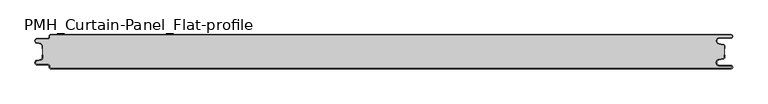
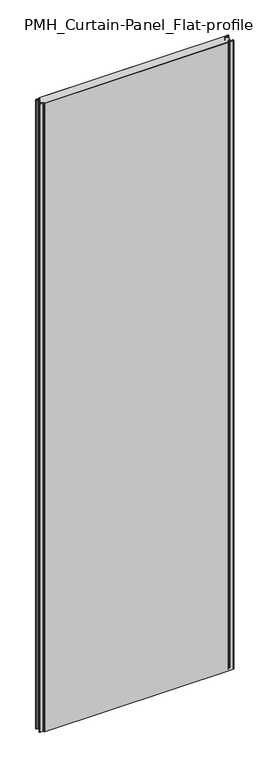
"""IFC4 building model written with IfcOpenShell, lengths in millimetres: plate geometry, PMH_Curtain-Panel_Flat-profile : ACH_PMH_Acoustic-Sectioning-Panel_50M."""

import ifcopenshell
import ifcopenshell.guid

model = None  # the IFC model being written
_history = None  # IfcOwnerHistory: only IFC2X3 demands one
_inside = {}  # id of a spatial element -> (the spatial element, [elements in it])
_under = {}  # id of a project, library or spatial element -> (it, [spatial elements below it])
_declared = {}  # id of a project -> (the project, [libraries it declares])
_typed = {}  # id of a type object -> (the type object, [elements of that type])
_made_of = {}  # id of a material, layer set ... -> (it, [elements and type objects made of it])


def new_model(schema):
    """Start an empty IFC model of exactly this schema.

    Asked for "IFC4X3", IfcOpenShell would pick the latest addendum, in which some entities
    have other attributes; the version numbers below select the first issue.
    IFC2X3 requires an IfcOwnerHistory on every rooted entity: one is made here for all.
    """
    global model, _history
    if schema == "IFC4X3":
        model = ifcopenshell.file(schema_version=(4, 3, 0, 0))
    else:
        model = ifcopenshell.file(schema=schema)
    _inside.clear()
    _under.clear()
    _declared.clear()
    _typed.clear()
    _made_of.clear()
    _history = None
    if model.schema == "IFC2X3":
        org = make("IfcOrganization", Name="unknown")
        user = make(
            "IfcPersonAndOrganization",
            ThePerson=make("IfcPerson", FamilyName="unknown"),
            TheOrganization=org,
        )
        app = make(
            "IfcApplication",
            ApplicationDeveloper=org,
            Version="unknown",
            ApplicationFullName="unknown",
            ApplicationIdentifier="unknown",
        )
        _history = make(
            "IfcOwnerHistory",
            OwningUser=user,
            OwningApplication=app,
            ChangeAction="ADDED",
            CreationDate=0,
        )
    return model


def make(cls, **values):
    """One entity of the class cls with the attributes given. An attribute that is None is left unset."""
    return model.create_entity(
        cls, **{name: value for name, value in values.items() if value is not None}
    )


def rooted(cls, **values):
    """An entity with a GlobalId (a new one), such as an element, a storey or a relation."""
    return make(cls, GlobalId=ifcopenshell.guid.new(), OwnerHistory=_history, **values)


def si_unit(unit_type, name, prefix=None):
    """IfcSIUnit, for example si_unit("LENGTHUNIT", "METRE", prefix="MILLI")."""
    return make("IfcSIUnit", UnitType=unit_type, Prefix=prefix, Name=name)


def assignment(units):
    """IfcUnitAssignment: the units of a project."""
    return None if units is None else make("IfcUnitAssignment", Units=units)


def point(xyz):
    """IfcCartesianPoint."""
    return None if xyz is None else make("IfcCartesianPoint", Coordinates=xyz)


def direction(xyz):
    """IfcDirection."""
    return None if xyz is None else make("IfcDirection", DirectionRatios=xyz)


def frame(location, z_axis=None, x_axis=None):
    """IfcAxis2Placement3D, a coordinate frame: its origin and axes. An axis left out is left unset."""
    return make(
        "IfcAxis2Placement3D",
        Location=point(location),
        Axis=direction(z_axis),
        RefDirection=direction(x_axis),
    )


def frame_2d(location, x_axis=None):
    """IfcAxis2Placement2D, a coordinate frame in the plane: its origin and x axis."""
    return make(
        "IfcAxis2Placement2D", Location=point(location), RefDirection=direction(x_axis)
    )


def origin():
    """The frame at (0, 0, 0) with its axes left unset."""
    return frame((0.0, 0.0, 0.0))


def origin_with_axes():
    """The frame at (0, 0, 0) with the z axis (0, 0, 1) and the x axis (1, 0, 0) written out."""
    return frame((0.0, 0.0, 0.0), z_axis=(0.0, 0.0, 1.0), x_axis=(1.0, 0.0, 0.0))


def place(relative_to, where):
    """IfcLocalPlacement: puts the frame where relative to a parent placement (None: the world)."""
    return make(
        "IfcLocalPlacement", PlacementRelTo=relative_to, RelativePlacement=where
    )


def context(
    kind, dimensions, precision=None, world=None, true_north=None, identifier=None
):
    """IfcGeometricRepresentationContext, for example the 3D "Model" context."""
    return make(
        "IfcGeometricRepresentationContext",
        ContextIdentifier=identifier,
        ContextType=kind,
        CoordinateSpaceDimension=dimensions,
        Precision=precision,
        WorldCoordinateSystem=world,
        TrueNorth=true_north,
    )


def project(units=None, contexts=None):
    """IfcProject with its units and contexts."""
    return rooted(
        "IfcProject",
        Name="project",
        RepresentationContexts=contexts,
        UnitsInContext=assignment(units),
    )


def spatial(cls, under=None, at=None, **own):
    """A site, building, storey or space (cls), placed at a placement, below another one or the project."""
    s = rooted(cls, ObjectPlacement=at, **own)
    if under is not None:
        _under.setdefault(under.id(), (under, []))[1].append(s)
    return s


def polyline(points):
    """IfcPolyline through the points."""
    return make("IfcPolyline", Points=[point(p) for p in points])


def circle_curve(where, radius):
    """IfcCircle in the frame where."""
    return make("IfcCircle", Position=where, Radius=radius)


def trimmed(basis, trim1, trim2, sense, master):
    """IfcTrimmedCurve: the piece of a basis curve between two trims."""
    return make(
        "IfcTrimmedCurve",
        BasisCurve=basis,
        Trim1=trim1,
        Trim2=trim2,
        SenseAgreement=sense,
        MasterRepresentation=master,
    )


def segment(curve, same_sense, transition):
    """IfcCompositeCurveSegment."""
    return make(
        "IfcCompositeCurveSegment",
        Transition=transition,
        SameSense=same_sense,
        ParentCurve=curve,
    )


def composite_curve(segments, self_intersect=None):
    """IfcCompositeCurve: segments joined end to end."""
    return make("IfcCompositeCurve", Segments=segments, SelfIntersect=self_intersect)


def outline(outer, holes=None, kind="AREA"):
    """IfcArbitraryClosedProfileDef: a profile drawn as a closed curve; with holes, ...WithVoids."""
    if holes is None:
        return make("IfcArbitraryClosedProfileDef", ProfileType=kind, OuterCurve=outer)
    return make(
        "IfcArbitraryProfileDefWithVoids",
        ProfileType=kind,
        OuterCurve=outer,
        InnerCurves=holes,
    )


def extrude(swept, where, along, depth):
    """IfcExtrudedAreaSolid: the profile swept, set in the frame where, extruded along a direction by depth."""
    return make(
        "IfcExtrudedAreaSolid",
        SweptArea=swept,
        Position=where,
        ExtrudedDirection=direction(along),
        Depth=depth,
    )


def shape(context_of_items, identifier, shape_type, items):
    """IfcShapeRepresentation: the items that make up one representation, for example the "Body"."""
    return make(
        "IfcShapeRepresentation",
        ContextOfItems=context_of_items,
        RepresentationIdentifier=identifier,
        RepresentationType=shape_type,
        Items=items,
    )


def source(mapping_origin, context_of_items, identifier, shape_type, items):
    """IfcRepresentationMap: a shape defined once, which mapped items show again and again."""
    return make(
        "IfcRepresentationMap",
        MappingOrigin=mapping_origin,
        MappedRepresentation=shape(context_of_items, identifier, shape_type, items),
    )


def transform(
    local_origin,
    x_axis=None,
    y_axis=None,
    z_axis=None,
    scale=None,
    scale2=None,
    scale3=None,
    uniform=True,
):
    """IfcCartesianTransformationOperator3D, or its non-uniform kind. x_axis, y_axis, z_axis: its Axis1, 2, 3."""
    if uniform:
        return make(
            "IfcCartesianTransformationOperator3D",
            Axis1=direction(x_axis),
            Axis2=direction(y_axis),
            LocalOrigin=point(local_origin),
            Scale=scale,
            Axis3=direction(z_axis),
        )
    return make(
        "IfcCartesianTransformationOperator3DnonUniform",
        Axis1=direction(x_axis),
        Axis2=direction(y_axis),
        LocalOrigin=point(local_origin),
        Scale=scale,
        Axis3=direction(z_axis),
        Scale2=scale2,
        Scale3=scale3,
    )


def mapped(mapping_source, mapping_target):
    """IfcMappedItem: shows the shape of a source again, moved by a transform."""
    return make(
        "IfcMappedItem", MappingSource=mapping_source, MappingTarget=mapping_target
    )


def made_of(thing, what):
    """Note that an element or type object is made of a material, layer set ...; save() writes the relation."""
    if what is not None:
        _made_of.setdefault(what.id(), (what, []))[1].append(thing)
    return thing


def element(
    cls,
    number,
    at=None,
    inside=None,
    cuts=None,
    type_object=None,
    material=None,
    context=None,
    identifier="Body",
    shape_type=None,
    held_by="IfcProductDefinitionShape",
    body=None,
    shapes=None,
    **own,
):
    """One element of the class cls, such as IfcWall. Its Tag is "e" and its number.

    at: its placement. inside: the storey or other place that contains it. cuts: it is an
    opening in that element (IfcRelVoidsElement). A single representation is given by context,
    identifier, shape_type and body (its items); several are given by shapes. held_by: the class
    of the entity that holds the representations. save() writes the other relations.
    """
    e = rooted(cls, Tag="e%d" % number, ObjectPlacement=at, **own)
    if body is not None:
        shapes = [shape(context, identifier, shape_type, body)]
    if shapes is not None:
        e.Representation = make(held_by, Representations=shapes)
    if inside is not None:
        _inside.setdefault(inside.id(), (inside, []))[1].append(e)
    if cuts is not None:
        rooted(
            "IfcRelVoidsElement", RelatingBuildingElement=cuts, RelatedOpeningElement=e
        )
    if type_object is not None:
        _typed.setdefault(type_object.id(), (type_object, []))[1].append(e)
    return made_of(e, material)


def aggregate(whole, parts):
    """IfcRelAggregates: a whole, such as a stair, and the parts it consists of."""
    return rooted("IfcRelAggregates", RelatingObject=whole, RelatedObjects=parts)


def save(model, path):
    """Write the relations noted so far, then the file.

    IfcRelAggregates (storeys below a building ...), IfcRelContainedInSpatialStructure (elements
    in a storey), IfcRelDefinesByType, IfcRelAssociatesMaterial and IfcRelDeclares: one each for
    every whole, place, type object, material and project.
    """
    for whole, parts in _under.values():
        aggregate(whole, parts)
    for where, things in _inside.values():
        rooted(
            "IfcRelContainedInSpatialStructure",
            RelatedElements=things,
            RelatingStructure=where,
        )
    for kind, things in _typed.values():
        rooted("IfcRelDefinesByType", RelatedObjects=things, RelatingType=kind)
    for what, things in _made_of.values():
        rooted("IfcRelAssociatesMaterial", RelatedObjects=things, RelatingMaterial=what)
    for by, libraries in _declared.values():
        rooted("IfcRelDeclares", RelatingContext=by, RelatedDefinitions=libraries)
    model.write(path)


def plane_surface(at):
    """IfcPlane: the flat surface through the origin of the frame at, square to its z axis."""
    return make("IfcPlane", Position=at)


def cylinder_surface(at, radius):
    """IfcCylindricalSurface: all points at the distance radius from the z axis of the frame at."""
    return make("IfcCylindricalSurface", Position=at, Radius=radius)


def revolved_surface(curve, axis_point, axis_direction):
    """IfcSurfaceOfRevolution: the curve turned about the line through axis_point along axis_direction."""
    return make(
        "IfcSurfaceOfRevolution",
        SweptCurve=make("IfcArbitraryOpenProfileDef", ProfileType="CURVE", Curve=curve),
        AxisPosition=make("IfcAxis1Placement", Location=point(axis_point), Axis=direction(axis_direction)),
    )


def advanced_brep(points, edges, surfaces, faces):
    """IfcAdvancedBrep: a solid bounded by faces that lie on surfaces and meet in shared edges.

    An edge is (start, end): straight between two places in points (the first is 0);
    or (start, end, curve); or (start, end, curve, False) where it runs against its curve.
    A face is (place in surfaces, loops), or (place, loops, False) where it looks against
    its surface's normal. A loop lists edges by number (the first is 1), with a minus sign
    where the edge is run from its end to its start. The first loop is the outer one.
    """
    corners = [point(p) for p in points]
    vertices = [make("IfcVertexPoint", VertexGeometry=c) for c in corners]
    made = []
    for start, end, *more in edges:
        made.append(
            make(
                "IfcEdgeCurve",
                EdgeStart=vertices[start],
                EdgeEnd=vertices[end],
                EdgeGeometry=more[0] if more else make("IfcPolyline", Points=[corners[start], corners[end]]),
                SameSense=more[1] if len(more) > 1 else True,
            )
        )
    hull = []
    for where, loops, *sense in faces:
        bounds = []
        for j, loop in enumerate(loops):
            ring = [make("IfcOrientedEdge", EdgeElement=made[abs(k) - 1], Orientation=k > 0) for k in loop]
            bounds.append(
                make(
                    "IfcFaceOuterBound" if j == 0 else "IfcFaceBound",
                    Bound=make("IfcEdgeLoop", EdgeList=ring),
                    Orientation=True,
                )
            )
        hull.append(make("IfcAdvancedFace", Bounds=bounds, FaceSurface=surfaces[where], SameSense=sense[0] if sense else True))
    return make("IfcAdvancedBrep", Outer=make("IfcClosedShell", CfsFaces=hull))


def pmh_curtain_panel_flat_profile_2aa518ef(model_context):
    return source(origin(), model_context, "Body", "SolidModel", [
        advanced_brep(
        [(508.1, 0.0, 3500.0), (510.6, 2.5000002, 3500.0), (508.1, 5.0, 3500.0), (491.1, 5.0, 3500.0), (490.405407, 12.939231, 3500.0), (496.8514855, 14.0758491, 3500.0), (499.0, 16.6363492, 3500.0), (499.0, 20.0, 3500.0), (498.2, 20.0, 3500.0), (498.2, 16.6363492, 3500.0), (496.7125669, 14.8636953, 3500.0), (490.2664884, 13.7270771, 3500.0), (491.1, 4.2, 3500.0), (508.1, 4.2, 3500.0), (508.1, 0.8, 3500.0), (-487.4, 0.8, 3500.0), (-488.6, 2.0, 3500.0), (-488.6, 3.4, 3500.0), (-491.4, 6.2, 3500.0), (-506.9, 6.2, 3500.0), (-507.529863, 11.7282362, 3500.0), (-501.370137, 13.150321, 3500.0), (-499.2, 15.878557, 3500.0), (-499.2, 20.0, 3500.0), (-500.0, 20.0, 3500.0), (-500.0, 15.878557, 3500.0), (-501.5500978, 13.9298169, 3500.0), (-507.7098239, 12.507732, 3500.0), (-506.9, 5.4, 3500.0), (-491.4, 5.4, 3500.0), (-489.4, 3.4, 3500.0), (-489.4, 2.0, 3500.0), (-487.4, 0.0, 3500.0), (-487.4, 0.0, 0.0), (-489.4, 2.0, 0.0), (-489.4, 3.4, 0.0), (-491.4, 5.4, 0.0), (-506.9, 5.4, 0.0), (-507.7098239, 12.5077322, 0.0), (-501.5500979, 13.929817, 0.0), (-500.0, 15.878557, 0.0), (-500.0, 20.0, 0.0), (-499.2, 20.0, 0.0), (-499.2, 15.878557, 0.0), (-501.370137, 13.1503208, 0.0), (-507.529863, 11.728236, 0.0), (-506.9, 6.2, 0.0), (-491.4, 6.2, 0.0), (-488.6, 3.4, 0.0), (-488.6, 2.0, 0.0), (-487.4, 0.8, 0.0), (508.1, 0.8, 0.0), (508.1, 4.2, 0.0), (491.1, 4.2, 0.0), (490.2664884, 13.7270771, 0.0), (496.7125669, 14.8636953, 0.0), (498.2, 16.6363492, 0.0), (498.2, 20.0, 0.0), (499.0, 20.0, 0.0), (499.0, 16.6363492, 0.0), (496.8514855, 14.0758491, 0.0), (490.405407, 12.939231, 0.0), (491.1, 5.0, 0.0), (508.1, 5.0, 0.0), (510.6, 2.4999998, 0.0), (508.1, 0.0, 0.0)],
        [
            (0, 1, circle_curve(frame((508.1, 2.5, 3500.0), z_axis=(0.0, 0.0, 1.0), x_axis=(1.0, 0.0, 0.0)), 2.5)),
            (1, 2, circle_curve(frame((508.1, 2.5, 3500.0), z_axis=(0.0, 0.0, 1.0), x_axis=(1.0, 0.0, 0.0)), 2.5)),
            (2, 3),
            (3, 4, circle_curve(frame((491.1, 9.0, 3500.0), z_axis=(0.0, 0.0, -1.0), x_axis=(1.0, 0.0, 0.0)), 4.0)),
            (4, 5),
            (5, 6, circle_curve(frame((496.4, 16.6363492, 3500.0), z_axis=(0.0, 0.0, 1.0), x_axis=(1.0, 0.0, 0.0)), 2.6)),
            (6, 7),
            (7, 8),
            (8, 9),
            (9, 10, circle_curve(frame((496.4, 16.6363492, 3500.0), z_axis=(0.0, 0.0, -1.0), x_axis=(1.0, 0.0, 0.0)), 1.8)),
            (10, 11),
            (11, 12, circle_curve(frame((491.1, 9.0, 3500.0), z_axis=(0.0, 0.0, 1.0), x_axis=(1.0, 0.0, 0.0)), 4.8)),
            (12, 13),
            (13, 14, circle_curve(frame((508.1, 2.5, 3500.0), z_axis=(0.0, 0.0, -1.0), x_axis=(1.0, 0.0, 0.0)), 1.7)),
            (14, 15),
            (15, 16, circle_curve(frame((-487.4, 2.0, 3500.0), z_axis=(0.0, 0.0, -1.0), x_axis=(1.0, 0.0, 0.0)), 1.2)),
            (16, 17),
            (17, 18, circle_curve(frame((-491.4, 3.4, 3500.0), z_axis=(0.0, 0.0, 1.0), x_axis=(1.0, 0.0, 0.0)), 2.8)),
            (18, 19),
            (19, 20, circle_curve(frame((-506.9, 9.0, 3500.0), z_axis=(0.0, 0.0, -1.0), x_axis=(1.0, 0.0, 0.0)), 2.8)),
            (20, 21),
            (21, 22, circle_curve(frame((-502.0, 15.878557, 3500.0), z_axis=(0.0, 0.0, 1.0), x_axis=(1.0, 0.0, 0.0)), 2.8)),
            (22, 23),
            (23, 24),
            (24, 25),
            (25, 26, circle_curve(frame((-502.0, 15.878557, 3500.0), z_axis=(0.0, 0.0, -1.0), x_axis=(1.0, 0.0, 0.0)), 2.0)),
            (26, 27),
            (27, 28, circle_curve(frame((-506.9, 9.0, 3500.0), z_axis=(0.0, 0.0, 1.0), x_axis=(1.0, 0.0, 0.0)), 3.6)),
            (28, 29),
            (29, 30, circle_curve(frame((-491.4, 3.4, 3500.0), z_axis=(0.0, 0.0, -1.0), x_axis=(1.0, 0.0, 0.0)), 2.0)),
            (30, 31),
            (31, 32, circle_curve(frame((-487.4, 2.0, 3500.0), z_axis=(0.0, 0.0, 1.0), x_axis=(1.0, 0.0, 0.0)), 2.0)),
            (32, 0),
            (33, 34, circle_curve(frame((-487.4, 2.0, 0.0), z_axis=(0.0, 0.0, -1.0), x_axis=(1.0, 0.0, 0.0)), 2.0)),
            (34, 35),
            (35, 36, circle_curve(frame((-491.4, 3.4, 0.0), z_axis=(0.0, 0.0, 1.0), x_axis=(1.0, 0.0, 0.0)), 2.0)),
            (36, 37),
            (37, 38, circle_curve(frame((-506.9, 9.0, 0.0), z_axis=(0.0, 0.0, -1.0), x_axis=(1.0, 0.0, 0.0)), 3.6)),
            (38, 39),
            (39, 40, circle_curve(frame((-502.0, 15.878557, 0.0), z_axis=(0.0, 0.0, 1.0), x_axis=(1.0, 0.0, 0.0)), 2.0)),
            (40, 41),
            (41, 42),
            (42, 43),
            (43, 44, circle_curve(frame((-502.0, 15.878557, 0.0), z_axis=(0.0, 0.0, -1.0), x_axis=(1.0, 0.0, 0.0)), 2.8)),
            (44, 45),
            (45, 46, circle_curve(frame((-506.9, 9.0, 0.0), z_axis=(0.0, 0.0, 1.0), x_axis=(1.0, 0.0, 0.0)), 2.8)),
            (46, 47),
            (47, 48, circle_curve(frame((-491.4, 3.4, 0.0), z_axis=(0.0, 0.0, -1.0), x_axis=(1.0, 0.0, 0.0)), 2.8)),
            (48, 49),
            (49, 50, circle_curve(frame((-487.4, 2.0, 0.0), z_axis=(0.0, 0.0, 1.0), x_axis=(1.0, 0.0, 0.0)), 1.2)),
            (50, 51),
            (51, 52, circle_curve(frame((508.1, 2.5, 0.0), z_axis=(0.0, 0.0, 1.0), x_axis=(1.0, 0.0, 0.0)), 1.7)),
            (52, 53),
            (53, 54, circle_curve(frame((491.1, 9.0, 0.0), z_axis=(0.0, 0.0, -1.0), x_axis=(1.0, 0.0, 0.0)), 4.8)),
            (54, 55),
            (55, 56, circle_curve(frame((496.4, 16.6363492, 0.0), z_axis=(0.0, 0.0, 1.0), x_axis=(1.0, 0.0, 0.0)), 1.8)),
            (56, 57),
            (57, 58),
            (58, 59),
            (59, 60, circle_curve(frame((496.4, 16.6363492, 0.0), z_axis=(0.0, 0.0, -1.0), x_axis=(1.0, 0.0, 0.0)), 2.6)),
            (60, 61),
            (61, 62, circle_curve(frame((491.1, 9.0, 0.0), z_axis=(0.0, 0.0, 1.0), x_axis=(1.0, 0.0, 0.0)), 4.0)),
            (62, 63),
            (63, 64, circle_curve(frame((508.1, 2.5, 0.0), z_axis=(0.0, 0.0, -1.0), x_axis=(1.0, 0.0, 0.0)), 2.5)),
            (64, 65, circle_curve(frame((508.1, 2.5, 0.0), z_axis=(0.0, 0.0, -1.0), x_axis=(1.0, 0.0, 0.0)), 2.5)),
            (65, 33),
            (31, 34),
            (33, 32),
            (30, 35),
            (29, 36),
            (28, 37),
            (27, 38),
            (26, 39),
            (25, 40),
            (24, 41),
            (23, 42),
            (22, 43),
            (21, 44),
            (20, 45),
            (19, 46),
            (18, 47),
            (17, 48),
            (16, 49),
            (15, 50),
            (14, 51),
            (13, 52),
            (12, 53),
            (11, 54),
            (10, 55),
            (9, 56),
            (8, 57),
            (7, 58),
            (6, 59),
            (5, 60),
            (4, 61),
            (3, 62),
            (2, 63),
            (0, 65),
        ],
        [
            plane_surface(frame((-500.0, 0.0, 3500.0), z_axis=(0.0, 0.0, 1.0), x_axis=(0.0, -1.0, 0.0))),
            plane_surface(frame((-500.0, 0.0, 0.0), z_axis=(0.0, 0.0, -1.0), x_axis=(0.0, -1.0, 0.0))),
            cylinder_surface(frame((-487.4, 2.0, 3500.0), z_axis=(0.0, 0.0, 1.0), x_axis=(1.0, 0.0, 0.0)), 2.0),
            plane_surface(frame((-489.4, 2.0, 3500.0), z_axis=(-1.0, 0.0, 0.0), x_axis=(0.0, 0.0, -1.0))),
            revolved_surface(polyline([(-489.4, 3.4, 0.0), (-489.4, 3.4, 3500.0)]), (-491.4, 3.4, 3500.0), (0.0, 0.0, -1.0)),
            plane_surface(frame((-491.4, 5.4, 3500.0), z_axis=(0.0, -1.0, 0.0), x_axis=(0.0, 0.0, -1.0))),
            cylinder_surface(frame((-506.9, 9.0, 3500.0), z_axis=(0.0, 0.0, 1.0), x_axis=(1.0, 0.0, 0.0)), 3.6),
            plane_surface(frame((-507.7098239, 12.507732, 3500.0), z_axis=(-0.2249510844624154, 0.9743700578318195, 0.0), x_axis=(0.0, 0.0, -1.0))),
            revolved_surface(polyline([(-500.0, 15.878557, 0.0), (-500.0, 15.878557, 3500.0)]), (-502.0, 15.878557, 3500.0), (0.0, 0.0, -1.0)),
            plane_surface(frame((-500.0, 15.878557, 3500.0), z_axis=(-1.0, 0.0, 0.0), x_axis=(0.0, 0.0, -1.0))),
            plane_surface(frame((-500.0, 20.0, 3500.0), z_axis=(0.0, 1.0, 0.0), x_axis=(0.0, 0.0, -1.0))),
            plane_surface(frame((-499.2, 20.0, 3500.0), z_axis=(1.0, 0.0, 0.0), x_axis=(0.0, 0.0, -1.0))),
            cylinder_surface(frame((-502.0, 15.878557, 3500.0), z_axis=(0.0, 0.0, 1.0), x_axis=(1.0, 0.0, 0.0)), 2.8),
            plane_surface(frame((-501.370137, 13.150321, 3500.0), z_axis=(0.22495108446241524, -0.9743700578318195, 0.0), x_axis=(0.0, 0.0, -1.0))),
            revolved_surface(polyline([(-504.09999999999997, 9.0, 0.0), (-504.09999999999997, 9.0, 3500.0)]), (-506.9, 9.0, 3500.0), (0.0, 0.0, -1.0)),
            plane_surface(frame((-506.9, 6.2, 3500.0), z_axis=(0.0, 1.0, 0.0), x_axis=(0.0, 0.0, -1.0))),
            cylinder_surface(frame((-491.4, 3.4, 3500.0), z_axis=(0.0, 0.0, 1.0), x_axis=(1.0, 0.0, 0.0)), 2.8),
            plane_surface(frame((-488.6, 3.4, 3500.0), z_axis=(1.0, 0.0, 0.0), x_axis=(0.0, 0.0, -1.0))),
            revolved_surface(polyline([(-486.2, 2.0, 0.0), (-486.2, 2.0, 3500.0)]), (-487.4, 2.0, 3500.0), (0.0, 0.0, -1.0)),
            plane_surface(frame((-487.4, 0.8, 3500.0), z_axis=(0.0, 1.0, 0.0), x_axis=(0.0, 0.0, -1.0))),
            revolved_surface(polyline([(509.8, 2.5, 0.0), (509.8, 2.5, 3500.0)]), (508.1, 2.5, 3500.0), (0.0, 0.0, -1.0)),
            plane_surface(frame((508.1, 4.2, 3500.0), z_axis=(0.0, -1.0, 0.0), x_axis=(0.0, 0.0, -1.0))),
            cylinder_surface(frame((491.1, 9.0, 3500.0), z_axis=(0.0, 0.0, 1.0), x_axis=(1.0, 0.0, 0.0)), 4.8),
            plane_surface(frame((490.2664884, 13.7270771, 3500.0), z_axis=(-0.17364826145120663, 0.984807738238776, 0.0), x_axis=(0.0, 0.0, -1.0))),
            revolved_surface(polyline([(498.2, 16.6363492, 0.0), (498.2, 16.6363492, 3500.0)]), (496.4, 16.6363492, 3500.0), (0.0, 0.0, -1.0)),
            plane_surface(frame((498.2, 16.6363492, 3500.0), z_axis=(-1.0, 0.0, 0.0), x_axis=(0.0, 0.0, -1.0))),
            plane_surface(frame((498.2, 20.0, 3500.0), z_axis=(0.0, 1.0, 0.0), x_axis=(0.0, 0.0, -1.0))),
            plane_surface(frame((499.0, 20.0, 3500.0), z_axis=(1.0, 0.0, 0.0), x_axis=(0.0, 0.0, -1.0))),
            cylinder_surface(frame((496.4, 16.6363492, 3500.0), z_axis=(0.0, 0.0, 1.0), x_axis=(1.0, 0.0, 0.0)), 2.6),
            plane_surface(frame((496.8514855, 14.0758491, 3500.0), z_axis=(0.17364826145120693, -0.9848077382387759, 0.0), x_axis=(0.0, 0.0, -1.0))),
            revolved_surface(polyline([(495.1, 9.0, 0.0), (495.1, 9.0, 3500.0)]), (491.1, 9.0, 3500.0), (0.0, 0.0, -1.0)),
            plane_surface(frame((491.1, 5.0, 3500.0), z_axis=(0.0, 1.0, 0.0), x_axis=(0.0, 0.0, -1.0))),
            cylinder_surface(frame((508.1, 2.5, 3500.0), z_axis=(0.0, 0.0, 1.0), x_axis=(1.0, 0.0, 0.0)), 2.5),
            plane_surface(frame((490.5783588, 0.0, 3500.0), z_axis=(0.0, -1.0, 0.0), x_axis=(0.0, 0.0, -1.0))),
        ],
        [
            (0, [[1, 2, 3, 4, 5, 6, 7, 8, 9, 10, 11, 12, 13, 14, 15, 16, 17, 18, 19, 20, 21, 22, 23, 24, 25, 26, 27, 28, 29, 30, 31, 32, 33]]),
            (1, [[34, 35, 36, 37, 38, 39, 40, 41, 42, 43, 44, 45, 46, 47, 48, 49, 50, 51, 52, 53, 54, 55, 56, 57, 58, 59, 60, 61, 62, 63, 64, 65, 66]]),
            (2, [[67, -34, 68, -32]]),
            (3, [[69, -35, -67, -31]]),
            (4, [[70, -36, -69, -30]]),
            (5, [[71, -37, -70, -29]]),
            (6, [[72, -38, -71, -28]]),
            (7, [[73, -39, -72, -27]]),
            (8, [[74, -40, -73, -26]]),
            (9, [[75, -41, -74, -25]]),
            (10, [[76, -42, -75, -24]]),
            (11, [[77, -43, -76, -23]]),
            (12, [[78, -44, -77, -22]]),
            (13, [[79, -45, -78, -21]]),
            (14, [[80, -46, -79, -20]]),
            (15, [[81, -47, -80, -19]]),
            (16, [[82, -48, -81, -18]]),
            (17, [[83, -49, -82, -17]]),
            (18, [[84, -50, -83, -16]]),
            (19, [[85, -51, -84, -15]]),
            (20, [[86, -52, -85, -14]]),
            (21, [[87, -53, -86, -13]]),
            (22, [[88, -54, -87, -12]]),
            (23, [[89, -55, -88, -11]]),
            (24, [[90, -56, -89, -10]]),
            (25, [[91, -57, -90, -9]]),
            (26, [[92, -58, -91, -8]]),
            (27, [[93, -59, -92, -7]]),
            (28, [[94, -60, -93, -6]]),
            (29, [[95, -61, -94, -5]]),
            (30, [[96, -62, -95, -4]]),
            (31, [[97, -63, -96, -3]]),
            (32, [[-2, -1, 98, -65, -64, -97]]),
            (33, [[-68, -66, -98, -33]]),
        ],
    ),
        extrude(outline(composite_curve([segment(trimmed(circle_curve(frame_2d((-502.0, 34.1214426)), 2.8), [point((-499.2, 34.1214426))], [point((-501.370137, 36.8496788))], True, "CARTESIAN"), True, "CONTINUOUS"), segment(polyline([(-501.370137, 36.8496788), (-507.5298631, 38.2717638)]), True, "CONTINUOUS"), segment(trimmed(circle_curve(frame_2d((-506.9, 41.0)), 2.8), [point((-507.5298631, 38.2717638))], [point((-506.9, 43.8))], False, "CARTESIAN"), True, "CONTINUOUS"), segment(polyline([(-506.9, 43.8), (-491.4000001, 43.8)]), True, "CONTINUOUS"), segment(trimmed(circle_curve(frame_2d((-491.4000001, 46.6)), 2.8), [point((-491.4000001, 43.8))], [point((-488.6000001, 46.6))], True, "CARTESIAN"), True, "CONTINUOUS"), segment(polyline([(-488.6000001, 46.6), (-488.6000001, 48.0)]), True, "CONTINUOUS"), segment(trimmed(circle_curve(frame_2d((-487.4000001, 48.0)), 1.2), [point((-488.6000001, 48.0))], [point((-487.4000001, 49.2))], False, "CARTESIAN"), True, "CONTINUOUS"), segment(polyline([(-487.4000001, 49.2), (508.1, 49.2)]), True, "CONTINUOUS"), segment(trimmed(circle_curve(frame_2d((508.1, 47.5)), 1.7), [point((508.1, 49.2))], [point((508.1, 45.8))], False, "CARTESIAN"), True, "CONTINUOUS"), segment(polyline([(508.1, 45.8), (491.1, 45.8)]), True, "CONTINUOUS"), segment(trimmed(circle_curve(frame_2d((491.1, 41.0)), 4.8), [point((491.1, 45.8))], [point((490.2664883, 36.2729229))], True, "CARTESIAN"), True, "CONTINUOUS"), segment(polyline([(490.2664883, 36.2729229), (496.7125668, 35.1363047)]), True, "CONTINUOUS"), segment(trimmed(circle_curve(frame_2d((496.4, 33.3636508)), 1.8), [point((496.7125668, 35.1363047))], [point((498.2, 33.3636508))], False, "CARTESIAN"), True, "CONTINUOUS"), segment(polyline([(498.2, 33.3636508), (498.2, 16.6363492)]), True, "CONTINUOUS"), segment(trimmed(circle_curve(frame_2d((496.4, 16.6363492)), 1.8), [point((498.2, 16.6363492))], [point((496.7125668, 14.8636953))], False, "CARTESIAN"), True, "CONTINUOUS"), segment(polyline([(496.7125668, 14.8636953), (490.2664883, 13.7270771)]), True, "CONTINUOUS"), segment(trimmed(circle_curve(frame_2d((491.1, 9.0)), 4.8), [point((490.2664883, 13.7270771))], [point((491.1, 4.2))], True, "CARTESIAN"), True, "CONTINUOUS"), segment(polyline([(491.1, 4.2), (508.1, 4.2)]), True, "CONTINUOUS"), segment(trimmed(circle_curve(frame_2d((508.1, 2.5)), 1.7), [point((508.1, 4.2))], [point((508.1, 0.8))], False, "CARTESIAN"), True, "CONTINUOUS"), segment(polyline([(508.1, 0.8), (-487.4000001, 0.8)]), True, "CONTINUOUS"), segment(trimmed(circle_curve(frame_2d((-487.4000001, 2.0)), 1.2), [point((-487.4000001, 0.8))], [point((-488.6000001, 2.0))], False, "CARTESIAN"), True, "CONTINUOUS"), segment(polyline([(-488.6000001, 2.0), (-488.6000001, 3.4)]), True, "CONTINUOUS"), segment(trimmed(circle_curve(frame_2d((-491.4000001, 3.4)), 2.8), [point((-488.6000001, 3.4))], [point((-491.4000001, 6.2))], True, "CARTESIAN"), True, "CONTINUOUS"), segment(polyline([(-491.4000001, 6.2), (-506.9, 6.2)]), True, "CONTINUOUS"), segment(trimmed(circle_curve(frame_2d((-506.9, 9.0)), 2.8), [point((-506.9, 6.2))], [point((-507.5298631, 11.7282362))], False, "CARTESIAN"), True, "CONTINUOUS"), segment(polyline([(-507.5298631, 11.7282362), (-501.370137, 13.1503212)]), True, "CONTINUOUS"), segment(trimmed(circle_curve(frame_2d((-502.0, 15.8785573)), 2.8), [point((-501.370137, 13.1503212))], [point((-499.2, 15.8785573))], True, "CARTESIAN"), True, "CONTINUOUS"), segment(polyline([(-499.2, 15.8785573), (-499.2, 34.1214426)]), True, "CONTINUOUS")], self_intersect=False)), origin_with_axes(), (0.0, 0.0, 1.0), 3500.0),
        advanced_brep(
        [(-487.4, 50.0, 3500.0), (-489.4, 48.0, 3500.0), (-489.4, 46.6, 3500.0), (-491.4, 44.6, 3500.0), (-506.9, 44.6, 3500.0), (-507.7098239, 37.4922678, 3500.0), (-501.5500979, 36.070183, 3500.0), (-500.0, 34.121443, 3500.0), (-500.0, 30.0, 3500.0), (-499.2, 30.0, 3500.0), (-499.2, 34.121443, 3500.0), (-501.370137, 36.8496792, 3500.0), (-507.529863, 38.271764, 3500.0), (-506.9, 43.8, 3500.0), (-491.4, 43.8, 3500.0), (-488.6, 46.6, 3500.0), (-488.6, 48.0, 3500.0), (-487.4, 49.2, 3500.0), (508.1, 49.2, 3500.0), (508.1, 45.8, 3500.0), (491.1, 45.8, 3500.0), (490.2664884, 36.2729229, 3500.0), (496.7125669, 35.1363047, 3500.0), (498.2, 33.3636508, 3500.0), (498.2, 30.0, 3500.0), (499.0, 30.0, 3500.0), (499.0, 33.3636508, 3500.0), (496.8514855, 35.9241509, 3500.0), (490.405407, 37.060769, 3500.0), (491.1, 45.0, 3500.0), (508.1, 45.0, 3500.0), (510.6, 47.5000002, 3500.0), (508.1, 50.0, 3500.0), (508.1, 50.0, 0.0), (510.6, 47.4999998, 0.0), (508.1, 45.0, 0.0), (491.1, 45.0, 0.0), (490.405407, 37.060769, 0.0), (496.8514855, 35.9241509, 0.0), (499.0, 33.3636508, 0.0), (499.0, 30.0, 0.0), (498.2, 30.0, 0.0), (498.2, 33.3636508, 0.0), (496.7125669, 35.1363047, 0.0), (490.2664884, 36.2729229, 0.0), (491.1, 45.8, 0.0), (508.1, 45.8, 0.0), (508.1, 49.2, 0.0), (-487.4, 49.2, 0.0), (-488.6, 48.0, 0.0), (-488.6, 46.6, 0.0), (-491.4, 43.8, 0.0), (-506.9, 43.8, 0.0), (-507.529863, 38.2717638, 0.0), (-501.370137, 36.849679, 0.0), (-499.2, 34.121443, 0.0), (-499.2, 30.0, 0.0), (-500.0, 30.0, 0.0), (-500.0, 34.121443, 0.0), (-501.5500978, 36.0701831, 0.0), (-507.7098239, 37.492268, 0.0), (-506.9, 44.6, 0.0), (-491.4, 44.6, 0.0), (-489.4, 46.6, 0.0), (-489.4, 48.0, 0.0), (-487.4, 50.0, 0.0)],
        [
            (0, 1, circle_curve(frame((-487.4, 48.0, 3500.0), z_axis=(0.0, 0.0, 1.0), x_axis=(1.0, 0.0, 0.0)), 2.0)),
            (1, 2),
            (2, 3, circle_curve(frame((-491.4, 46.6, 3500.0), z_axis=(0.0, 0.0, -1.0), x_axis=(1.0, 0.0, 0.0)), 2.0)),
            (3, 4),
            (4, 5, circle_curve(frame((-506.9, 41.0, 3500.0), z_axis=(0.0, 0.0, 1.0), x_axis=(1.0, 0.0, 0.0)), 3.6)),
            (5, 6),
            (6, 7, circle_curve(frame((-502.0, 34.121443, 3500.0), z_axis=(0.0, 0.0, -1.0), x_axis=(1.0, 0.0, 0.0)), 2.0)),
            (7, 8),
            (8, 9),
            (9, 10),
            (10, 11, circle_curve(frame((-502.0, 34.121443, 3500.0), z_axis=(0.0, 0.0, 1.0), x_axis=(1.0, 0.0, 0.0)), 2.8)),
            (11, 12),
            (12, 13, circle_curve(frame((-506.9, 41.0, 3500.0), z_axis=(0.0, 0.0, -1.0), x_axis=(1.0, 0.0, 0.0)), 2.8)),
            (13, 14),
            (14, 15, circle_curve(frame((-491.4, 46.6, 3500.0), z_axis=(0.0, 0.0, 1.0), x_axis=(1.0, 0.0, 0.0)), 2.8)),
            (15, 16),
            (16, 17, circle_curve(frame((-487.4, 48.0, 3500.0), z_axis=(0.0, 0.0, -1.0), x_axis=(1.0, 0.0, 0.0)), 1.2)),
            (17, 18),
            (18, 19, circle_curve(frame((508.1, 47.5, 3500.0), z_axis=(0.0, 0.0, -1.0), x_axis=(1.0, 0.0, 0.0)), 1.7)),
            (19, 20),
            (20, 21, circle_curve(frame((491.1, 41.0, 3500.0), z_axis=(0.0, 0.0, 1.0), x_axis=(1.0, 0.0, 0.0)), 4.8)),
            (21, 22),
            (22, 23, circle_curve(frame((496.4, 33.3636508, 3500.0), z_axis=(0.0, 0.0, -1.0), x_axis=(1.0, 0.0, 0.0)), 1.8)),
            (23, 24),
            (24, 25),
            (25, 26),
            (26, 27, circle_curve(frame((496.4, 33.3636508, 3500.0), z_axis=(0.0, 0.0, 1.0), x_axis=(1.0, 0.0, 0.0)), 2.6)),
            (27, 28),
            (28, 29, circle_curve(frame((491.1, 41.0, 3500.0), z_axis=(0.0, 0.0, -1.0), x_axis=(1.0, 0.0, 0.0)), 4.0)),
            (29, 30),
            (30, 31, circle_curve(frame((508.1, 47.5, 3500.0), z_axis=(0.0, 0.0, 1.0), x_axis=(1.0, 0.0, 0.0)), 2.5)),
            (31, 32, circle_curve(frame((508.1, 47.5, 3500.0), z_axis=(0.0, 0.0, 1.0), x_axis=(1.0, 0.0, 0.0)), 2.5)),
            (32, 0),
            (33, 34, circle_curve(frame((508.1, 47.5, 0.0), z_axis=(0.0, 0.0, -1.0), x_axis=(1.0, 0.0, 0.0)), 2.5)),
            (34, 35, circle_curve(frame((508.1, 47.5, 0.0), z_axis=(0.0, 0.0, -1.0), x_axis=(1.0, 0.0, 0.0)), 2.5)),
            (35, 36),
            (36, 37, circle_curve(frame((491.1, 41.0, 0.0), z_axis=(0.0, 0.0, 1.0), x_axis=(1.0, 0.0, 0.0)), 4.0)),
            (37, 38),
            (38, 39, circle_curve(frame((496.4, 33.3636508, 0.0), z_axis=(0.0, 0.0, -1.0), x_axis=(1.0, 0.0, 0.0)), 2.6)),
            (39, 40),
            (40, 41),
            (41, 42),
            (42, 43, circle_curve(frame((496.4, 33.3636508, 0.0), z_axis=(0.0, 0.0, 1.0), x_axis=(1.0, 0.0, 0.0)), 1.8)),
            (43, 44),
            (44, 45, circle_curve(frame((491.1, 41.0, 0.0), z_axis=(0.0, 0.0, -1.0), x_axis=(1.0, 0.0, 0.0)), 4.8)),
            (45, 46),
            (46, 47, circle_curve(frame((508.1, 47.5, 0.0), z_axis=(0.0, 0.0, 1.0), x_axis=(1.0, 0.0, 0.0)), 1.7)),
            (47, 48),
            (48, 49, circle_curve(frame((-487.4, 48.0, 0.0), z_axis=(0.0, 0.0, 1.0), x_axis=(1.0, 0.0, 0.0)), 1.2)),
            (49, 50),
            (50, 51, circle_curve(frame((-491.4, 46.6, 0.0), z_axis=(0.0, 0.0, -1.0), x_axis=(1.0, 0.0, 0.0)), 2.8)),
            (51, 52),
            (52, 53, circle_curve(frame((-506.9, 41.0, 0.0), z_axis=(0.0, 0.0, 1.0), x_axis=(1.0, 0.0, 0.0)), 2.8)),
            (53, 54),
            (54, 55, circle_curve(frame((-502.0, 34.121443, 0.0), z_axis=(0.0, 0.0, -1.0), x_axis=(1.0, 0.0, 0.0)), 2.8)),
            (55, 56),
            (56, 57),
            (57, 58),
            (58, 59, circle_curve(frame((-502.0, 34.121443, 0.0), z_axis=(0.0, 0.0, 1.0), x_axis=(1.0, 0.0, 0.0)), 2.0)),
            (59, 60),
            (60, 61, circle_curve(frame((-506.9, 41.0, 0.0), z_axis=(0.0, 0.0, -1.0), x_axis=(1.0, 0.0, 0.0)), 3.6)),
            (61, 62),
            (62, 63, circle_curve(frame((-491.4, 46.6, 0.0), z_axis=(0.0, 0.0, 1.0), x_axis=(1.0, 0.0, 0.0)), 2.0)),
            (63, 64),
            (64, 65, circle_curve(frame((-487.4, 48.0, 0.0), z_axis=(0.0, 0.0, -1.0), x_axis=(1.0, 0.0, 0.0)), 2.0)),
            (65, 33),
            (32, 33),
            (65, 0),
            (30, 35),
            (29, 36),
            (28, 37),
            (27, 38),
            (26, 39),
            (25, 40),
            (24, 41),
            (23, 42),
            (22, 43),
            (21, 44),
            (20, 45),
            (19, 46),
            (18, 47),
            (17, 48),
            (16, 49),
            (15, 50),
            (14, 51),
            (13, 52),
            (12, 53),
            (11, 54),
            (10, 55),
            (9, 56),
            (8, 57),
            (7, 58),
            (6, 59),
            (5, 60),
            (4, 61),
            (3, 62),
            (2, 63),
            (1, 64),
        ],
        [
            plane_surface(frame((-500.0, 50.0, 3500.0), z_axis=(0.0, 0.0, 1.0), x_axis=(0.0, -1.0, 0.0))),
            plane_surface(frame((-500.0, 50.0, 0.0), z_axis=(0.0, 0.0, -1.0), x_axis=(0.0, -1.0, 0.0))),
            plane_surface(frame((490.5783588, 50.0, 3500.0), z_axis=(0.0, 1.0, 0.0), x_axis=(0.0, 0.0, -1.0))),
            cylinder_surface(frame((508.1, 47.5, 3500.0), z_axis=(0.0, 0.0, 1.0), x_axis=(1.0, 0.0, 0.0)), 2.5),
            plane_surface(frame((508.1, 45.0, 3500.0), z_axis=(0.0, -1.0, 0.0), x_axis=(0.0, 0.0, -1.0))),
            revolved_surface(polyline([(495.1, 41.0, 0.0), (495.1, 41.0, 3500.0)]), (491.1, 41.0, 3500.0), (0.0, 0.0, -1.0)),
            plane_surface(frame((490.405407, 37.060769, 3500.0), z_axis=(0.17364826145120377, 0.9848077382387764, 0.0), x_axis=(0.0, 0.0, -1.0))),
            cylinder_surface(frame((496.4, 33.3636508, 3500.0), z_axis=(0.0, 0.0, 1.0), x_axis=(1.0, 0.0, 0.0)), 2.6),
            plane_surface(frame((499.0, 33.3636508, 3500.0), z_axis=(1.0, 0.0, 0.0), x_axis=(0.0, 0.0, -1.0))),
            plane_surface(frame((499.0, 30.0, 3500.0), z_axis=(0.0, -1.0, 0.0), x_axis=(0.0, 0.0, -1.0))),
            plane_surface(frame((498.2, 30.0, 3500.0), z_axis=(-1.0, 0.0, 0.0), x_axis=(0.0, 0.0, -1.0))),
            revolved_surface(polyline([(498.2, 33.3636508, 0.0), (498.2, 33.3636508, 3500.0)]), (496.4, 33.3636508, 3500.0), (0.0, 0.0, -1.0)),
            plane_surface(frame((496.7125669, 35.1363047, 3500.0), z_axis=(-0.17364826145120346, -0.9848077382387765, 0.0), x_axis=(0.0, 0.0, -1.0))),
            cylinder_surface(frame((491.1, 41.0, 3500.0), z_axis=(0.0, 0.0, 1.0), x_axis=(1.0, 0.0, 0.0)), 4.8),
            plane_surface(frame((491.1, 45.8, 3500.0), z_axis=(0.0, 1.0, 0.0), x_axis=(0.0, 0.0, -1.0))),
            revolved_surface(polyline([(509.8, 47.5, 0.0), (509.8, 47.5, 3500.0)]), (508.1, 47.5, 3500.0), (0.0, 0.0, -1.0)),
            plane_surface(frame((508.1, 49.2, 3500.0), z_axis=(0.0, -1.0, 0.0), x_axis=(0.0, 0.0, -1.0))),
            revolved_surface(polyline([(-486.2, 48.0, 0.0), (-486.2, 48.0, 3500.0)]), (-487.4, 48.0, 3500.0), (0.0, 0.0, -1.0)),
            plane_surface(frame((-488.6, 48.0, 3500.0), z_axis=(1.0, 0.0, 0.0), x_axis=(0.0, 0.0, -1.0))),
            cylinder_surface(frame((-491.4, 46.6, 3500.0), z_axis=(0.0, 0.0, 1.0), x_axis=(1.0, 0.0, 0.0)), 2.8),
            plane_surface(frame((-491.4, 43.8, 3500.0), z_axis=(0.0, -1.0, 0.0), x_axis=(0.0, 0.0, -1.0))),
            revolved_surface(polyline([(-504.09999999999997, 41.0, 0.0), (-504.09999999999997, 41.0, 3500.0)]), (-506.9, 41.0, 3500.0), (0.0, 0.0, -1.0)),
            plane_surface(frame((-507.529863, 38.271764, 3500.0), z_axis=(0.2249510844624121, 0.9743700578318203, 0.0), x_axis=(0.0, 0.0, -1.0))),
            cylinder_surface(frame((-502.0, 34.121443, 3500.0), z_axis=(0.0, 0.0, 1.0), x_axis=(1.0, 0.0, 0.0)), 2.8),
            plane_surface(frame((-499.2, 34.121443, 3500.0), z_axis=(1.0, 0.0, 0.0), x_axis=(0.0, 0.0, -1.0))),
            plane_surface(frame((-499.2, 30.0, 3500.0), z_axis=(0.0, -1.0, 0.0), x_axis=(0.0, 0.0, -1.0))),
            plane_surface(frame((-500.0, 30.0, 3500.0), z_axis=(-1.0, 0.0, 0.0), x_axis=(0.0, 0.0, -1.0))),
            revolved_surface(polyline([(-500.0, 34.121443, 0.0), (-500.0, 34.121443, 3500.0)]), (-502.0, 34.121443, 3500.0), (0.0, 0.0, -1.0)),
            plane_surface(frame((-501.5500979, 36.070183, 3500.0), z_axis=(-0.22495108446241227, -0.9743700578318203, 0.0), x_axis=(0.0, 0.0, -1.0))),
            cylinder_surface(frame((-506.9, 41.0, 3500.0), z_axis=(0.0, 0.0, 1.0), x_axis=(1.0, 0.0, 0.0)), 3.6),
            plane_surface(frame((-506.9, 44.6, 3500.0), z_axis=(0.0, 1.0, 0.0), x_axis=(0.0, 0.0, -1.0))),
            revolved_surface(polyline([(-489.4, 46.6, 0.0), (-489.4, 46.6, 3500.0)]), (-491.4, 46.6, 3500.0), (0.0, 0.0, -1.0)),
            plane_surface(frame((-489.4, 46.6, 3500.0), z_axis=(-1.0, 0.0, 0.0), x_axis=(0.0, 0.0, -1.0))),
            cylinder_surface(frame((-487.4, 48.0, 3500.0), z_axis=(0.0, 0.0, 1.0), x_axis=(1.0, 0.0, 0.0)), 2.0),
        ],
        [
            (0, [[1, 2, 3, 4, 5, 6, 7, 8, 9, 10, 11, 12, 13, 14, 15, 16, 17, 18, 19, 20, 21, 22, 23, 24, 25, 26, 27, 28, 29, 30, 31, 32, 33]]),
            (1, [[34, 35, 36, 37, 38, 39, 40, 41, 42, 43, 44, 45, 46, 47, 48, 49, 50, 51, 52, 53, 54, 55, 56, 57, 58, 59, 60, 61, 62, 63, 64, 65, 66]]),
            (2, [[67, -66, 68, -33]]),
            (3, [[-32, -31, 69, -35, -34, -67]]),
            (4, [[70, -36, -69, -30]]),
            (5, [[71, -37, -70, -29]]),
            (6, [[72, -38, -71, -28]]),
            (7, [[73, -39, -72, -27]]),
            (8, [[74, -40, -73, -26]]),
            (9, [[75, -41, -74, -25]]),
            (10, [[76, -42, -75, -24]]),
            (11, [[77, -43, -76, -23]]),
            (12, [[78, -44, -77, -22]]),
            (13, [[79, -45, -78, -21]]),
            (14, [[80, -46, -79, -20]]),
            (15, [[81, -47, -80, -19]]),
            (16, [[82, -48, -81, -18]]),
            (17, [[83, -49, -82, -17]]),
            (18, [[84, -50, -83, -16]]),
            (19, [[85, -51, -84, -15]]),
            (20, [[86, -52, -85, -14]]),
            (21, [[87, -53, -86, -13]]),
            (22, [[88, -54, -87, -12]]),
            (23, [[89, -55, -88, -11]]),
            (24, [[90, -56, -89, -10]]),
            (25, [[91, -57, -90, -9]]),
            (26, [[92, -58, -91, -8]]),
            (27, [[93, -59, -92, -7]]),
            (28, [[94, -60, -93, -6]]),
            (29, [[95, -61, -94, -5]]),
            (30, [[96, -62, -95, -4]]),
            (31, [[97, -63, -96, -3]]),
            (32, [[98, -64, -97, -2]]),
            (33, [[-68, -65, -98, -1]]),
        ],
    ),
    ])


if __name__ == "__main__":
    model = new_model("IFC4")
    model_context = context("Model", 3, world=origin())
    ifc_project = project(units=[si_unit("LENGTHUNIT", "METRE", prefix="MILLI")], contexts=[model_context])
    site = spatial("IfcSite", under=ifc_project)
    building = spatial("IfcBuilding", under=site)
    placement = place(None, origin())
    pmh_curtain_panel_flat_profile_shape = pmh_curtain_panel_flat_profile_2aa518ef(model_context)
    element("IfcPlate", 1, ObjectType="PMH_Curtain-Panel_Flat-profile : ACH_PMH_Acoustic-Sectioning-Panel_50M", at=placement, inside=building, context=model_context, shape_type="MappedRepresentation", body=[
        mapped(pmh_curtain_panel_flat_profile_shape, transform((0.0, 0.0, 0.0), x_axis=(1.0, 0.0, 0.0), y_axis=(0.0, 1.0, 0.0), z_axis=(0.0, 0.0, 1.0))),
    ])
    save(model, "model.ifc")
